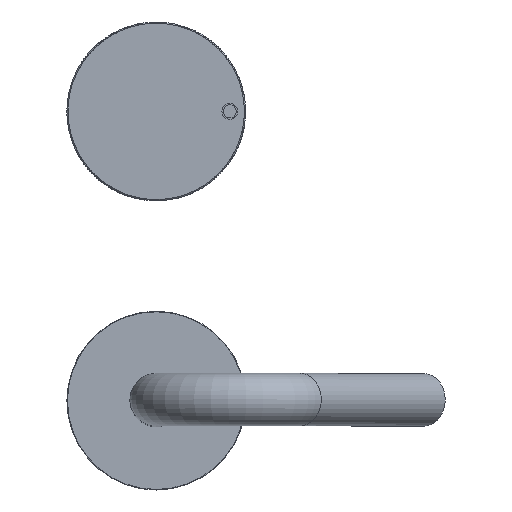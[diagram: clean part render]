
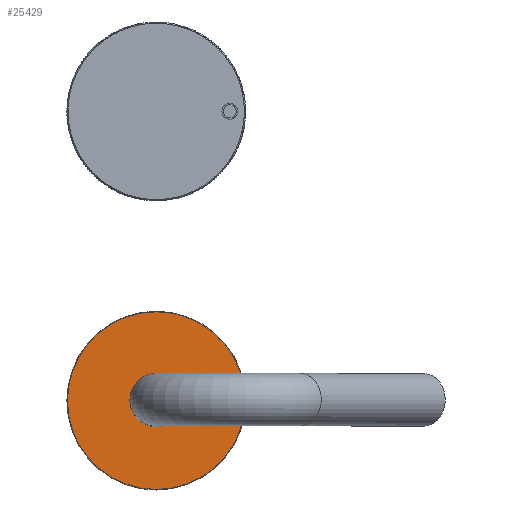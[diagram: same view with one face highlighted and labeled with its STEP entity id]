
A CAD part, top view. The second image highlights one B-rep face of the part: STEP entity #25429.
In plain terms, the highlighted planar face has unit normal (0, 0, 1).
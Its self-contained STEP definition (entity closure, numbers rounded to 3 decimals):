
#7893=ORIENTED_EDGE('',*,*,#10649,.T.);
#7894=ORIENTED_EDGE('',*,*,#10650,.T.);
#10649=EDGE_CURVE('',#12198,#12198,#13163,.F.);
#10650=EDGE_CURVE('',#12199,#12199,#13164,.T.);
#12198=VERTEX_POINT('',#40438);
#12199=VERTEX_POINT('',#40440);
#13163=CIRCLE('',#27502,33.8);
#13164=CIRCLE('',#27503,8.958);
#14426=EDGE_LOOP('',(#7893));
#14427=EDGE_LOOP('',(#7894));
#15754=FACE_BOUND('',#14426,.T.);
#15755=FACE_BOUND('',#14427,.T.);
#16389=PLANE('',#27501);
#25429=ADVANCED_FACE('',(#15754,#15755),#16389,.F.);
#27501=AXIS2_PLACEMENT_3D('',#40436,#32259,#32260);
#27502=AXIS2_PLACEMENT_3D('',#40437,#32261,#32262);
#27503=AXIS2_PLACEMENT_3D('',#40439,#32263,#32264);
#32259=DIRECTION('',(0.,0.,-1.));
#32260=DIRECTION('',(-1.,0.,0.));
#32261=DIRECTION('',(0.,0.,-1.));
#32262=DIRECTION('',(-1.,0.,0.));
#32263=DIRECTION('',(0.,0.,-1.));
#32264=DIRECTION('',(-1.,0.,0.));
#40436=CARTESIAN_POINT('',(0.,0.,5.5));
#40437=CARTESIAN_POINT('',(0.,0.,5.5));
#40438=CARTESIAN_POINT('',(-33.8,0.,5.5));
#40439=CARTESIAN_POINT('',(0.,0.,5.5));
#40440=CARTESIAN_POINT('',(-8.958,0.,5.5));
